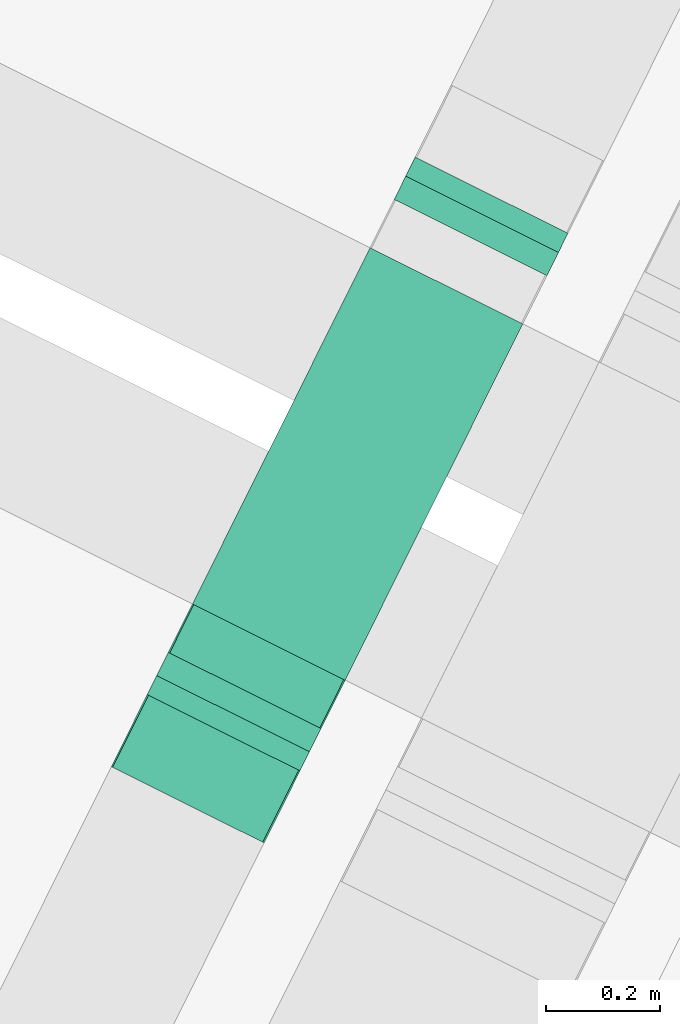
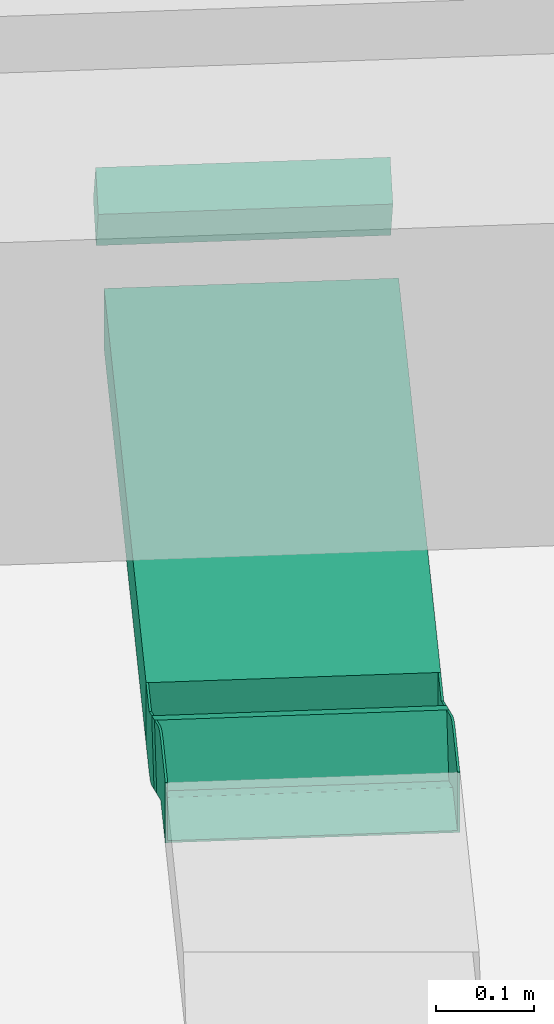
# One storey, part 27 of 47: 3 flow segments, 2 flow fittings.
"""IFC2X3 building model written with IfcOpenShell, lengths in metres."""

from ifc_helpers import new_model, entity, si_unit, converted_unit, derived_unit, direction, frame, frame_2d, origin, place, context, subcontext, project, spatial, rectangle, extrude, faceted_brep, source, transform, mapped, type_object, type_shapes, element, save


model = new_model("IFC2X3")

# Units and contexts
model_context = context("Model", 3, precision=1e-05, world=origin(), true_north=direction((0.894925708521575, 0.446215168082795)))
context_of_model = context(None, 3, precision=1e-05, world=origin(), true_north=direction((0.894925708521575, 0.446215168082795)))
body_context = subcontext(model_context, "Body", "Model", "MODEL_VIEW")
ifc_project = project(units=[si_unit("LENGTHUNIT", "METRE"), si_unit("AREAUNIT", "SQUARE_METRE"), si_unit("VOLUMEUNIT", "CUBIC_METRE"), converted_unit("PLANEANGLEUNIT", "DEGREE", entity("IfcRatioMeasure", 0.0174532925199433), si_unit("PLANEANGLEUNIT", "RADIAN"), dimensions=[0, 0, 0, 0, 0, 0, 0]), si_unit("MASSUNIT", "GRAM", prefix="KILO"), si_unit("TIMEUNIT", "SECOND"), si_unit("FREQUENCYUNIT", "HERTZ"), si_unit("THERMODYNAMICTEMPERATUREUNIT", "DEGREE_CELSIUS"), derived_unit("THERMALTRANSMITTANCEUNIT", [(si_unit("MASSUNIT", "GRAM", prefix="KILO"), 1), (si_unit("THERMODYNAMICTEMPERATUREUNIT", "KELVIN"), -1), (si_unit("TIMEUNIT", "SECOND"), -3)]), derived_unit("VOLUMETRICFLOWRATEUNIT", [(si_unit("LENGTHUNIT", "METRE"), 3), (si_unit("TIMEUNIT", "SECOND"), -1)]), si_unit("ELECTRICCURRENTUNIT", "AMPERE"), si_unit("ELECTRICVOLTAGEUNIT", "VOLT"), si_unit("POWERUNIT", "WATT"), si_unit("FORCEUNIT", "NEWTON", prefix="KILO"), si_unit("ILLUMINANCEUNIT", "LUX"), si_unit("LUMINOUSFLUXUNIT", "LUMEN"), si_unit("LUMINOUSINTENSITYUNIT", "CANDELA"), si_unit("PRESSUREUNIT", "PASCAL")], contexts=[model_context, context_of_model])

# Site, building, storey
site_placement = place(None, frame((218.228324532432, 584.720189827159, 0.0), z_axis=(0.0, 0.0, 1.0), x_axis=(0.446215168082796, 0.894925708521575, 0.0)))
site = spatial("IfcSite", under=ifc_project, at=site_placement, Name="Default", CompositionType="ELEMENT")
building_placement = place(site_placement, origin())
building = spatial("IfcBuilding", under=site, at=building_placement, CompositionType="ELEMENT")
storey_placement = place(building_placement, frame((0.0, 0.0, 4.69)))
storey = spatial("IfcBuildingStorey", under=building, at=storey_placement, Name="1 - Piano Primo", CompositionType="ELEMENT", Elevation=4.69)

# Flow segments
cable_carrier_segment_type = type_object("IfcCableCarrierSegmentType", Name="Passerella con raccordi:Passerella canale", PredefinedType="NOTDEFINED")
flow_segment_1_placement = place(storey_placement, frame((-13.3624177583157, -3.35107899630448, 2.92822448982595)))
element("IfcFlowSegment", 1, at=flow_segment_1_placement, inside=storey, type_object=cable_carrier_segment_type, Name="Passerella con raccordi:Passerella canale", ObjectType="Passerella con raccordi:Passerella canale", context=body_context, shape_type="SweptSolid", body=[
    extrude(rectangle(XDim=0.0749999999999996, YDim=0.0527002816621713, at=frame_2d((2.70616862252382e-16, 4.64905891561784e-16), x_axis=(0.0, 1.0))), frame((0.0415698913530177, 0.0, 0.0456510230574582), z_axis=(0.0, 1.0, 0.0), x_axis=(-0.866025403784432, 0.0, 0.500000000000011)), (0.0, 0.0, 1.0), 0.3),
])
flow_segment_2_placement = place(storey_placement, frame((-13.1843892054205, -3.35107899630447, 2.8927510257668)))
element("IfcFlowSegment", 2, at=flow_segment_2_placement, inside=storey, type_object=cable_carrier_segment_type, Name="Passerella con raccordi:Passerella canale", ObjectType="Passerella con raccordi:Passerella canale", context=body_context, shape_type="SweptSolid", body=[
    extrude(rectangle(XDim=0.699999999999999, YDim=0.3, at=frame_2d((1.08246744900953e-15, 0.0), x_axis=(1.0, 0.0))), frame((0.350000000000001, 0.150000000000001, 0.0)), (0.0, 0.0, 1.0), 0.0750000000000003),
])
flow_segment_3_placement = place(storey_placement, frame((-12.3895004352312, -3.35107899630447, 2.92822448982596)))
element("IfcFlowSegment", 3, at=flow_segment_3_placement, inside=storey, type_object=cable_carrier_segment_type, Name="Passerella con raccordi:Passerella canale", ObjectType="Passerella con raccordi:Passerella canale", context=body_context, shape_type="SweptSolid", body=[
    extrude(rectangle(XDim=0.0749999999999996, YDim=0.0527002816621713, at=frame_2d((-2.70616862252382e-16, 4.68375338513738e-16), x_axis=(0.0, 1.0))), frame((0.0415698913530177, 0.0, 0.0456510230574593), z_axis=(0.0, 1.0, 0.0), x_axis=(0.866025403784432, 0.0, 0.500000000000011)), (0.0, 0.0, 1.0), 0.3),
])

# Flow fittings
cable_carrier_fitting_type_1 = type_object("IfcCableCarrierFittingType", Name="Standard", PredefinedType="NOTDEFINED")
shared_shape_1 = source(origin(), body_context, "Body", "Brep", [
    faceted_brep([(-0.0608988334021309, -0.0374999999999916, -0.150000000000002), (-0.0608988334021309, -0.0374999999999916, -0.147460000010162), (-0.0608988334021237, 0.0349600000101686, -0.147460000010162), (-0.0608988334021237, 0.0349600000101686, 0.147460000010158), (-0.0608988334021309, -0.0374999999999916, 0.147460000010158), (-0.0608988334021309, -0.0374999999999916, 0.149999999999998), (-0.0608988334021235, 0.0375000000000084, 0.149999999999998), (-0.0608988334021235, 0.0375000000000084, -0.150000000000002), (0.0702199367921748, -0.000173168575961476, -0.147460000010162), (0.0339899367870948, -0.0629253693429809, -0.147460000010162), (0.0339899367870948, -0.0629253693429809, -0.150000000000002), (0.0714899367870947, 0.00202653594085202, -0.150000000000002), (0.0714899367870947, 0.00202653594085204, 0.149999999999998), (0.0339899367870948, -0.0629253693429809, 0.149999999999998), (0.0339899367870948, -0.0629253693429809, 0.147460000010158), (0.0702199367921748, -0.000173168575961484, 0.147460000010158), (-0.0108988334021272, -0.0374999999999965, 0.149999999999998), (-0.0100770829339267, -0.0376081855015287, 0.149999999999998), (-0.00931133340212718, -0.037925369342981, 0.149999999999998), (0.0281886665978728, 0.027026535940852, 0.149999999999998), (0.00933434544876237, 0.0348362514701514, 0.149999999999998), (-0.0108988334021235, 0.0375000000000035, 0.149999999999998), (-0.0108988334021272, 0.0375000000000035, -0.00436238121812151), (-0.0108988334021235, 0.0375000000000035, -0.150000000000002), (0.00933434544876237, 0.0348362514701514, -0.150000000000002), (0.0281886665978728, 0.027026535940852, -0.150000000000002), (-0.00931133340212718, -0.0379253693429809, -0.150000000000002), (-0.0100770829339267, -0.0376081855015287, -0.150000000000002), (-0.0108988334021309, -0.0374999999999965, -0.150000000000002), (-0.0108988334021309, -0.0374999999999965, -0.147460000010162), (-0.0108988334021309, -0.0374999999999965, 0.147460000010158), (-0.0100770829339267, -0.0376081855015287, -0.147460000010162), (-0.00931133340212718, -0.037925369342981, -0.147460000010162), (0.0269186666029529, 0.0248268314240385, -0.147460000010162), (0.00867694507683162, 0.0323827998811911, -0.147460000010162), (-0.0108988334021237, 0.0349600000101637, -0.147460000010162), (-0.0108988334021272, 0.0349600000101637, -0.00437396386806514), (-0.0108988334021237, 0.0349600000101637, 0.147460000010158), (0.00867694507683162, 0.0323827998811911, 0.147460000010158), (0.0269186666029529, 0.0248268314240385, 0.147460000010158), (-0.00931133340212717, -0.0379253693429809, 0.147460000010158), (-0.0100770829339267, -0.0376081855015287, 0.147460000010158), (0.00517118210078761, 0.0358304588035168, 0.0), (0.0281886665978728, 0.027026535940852, -0.00436237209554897), (0.00483151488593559, 0.0333061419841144, 0.0), (0.0269186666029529, 0.0248268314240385, -0.00437395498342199)], [[[0, 1, 2, 3, 4, 5, 6, 7]], [[8, 9, 10, 11, 12, 13, 14, 15]], [[5, 16, 17, 18, 13, 12, 19, 20, 21, 6]], [[21, 22, 23, 7, 6]], [[7, 23, 24, 25, 11, 10, 26, 27, 28, 0]], [[29, 1, 0, 28]], [[16, 5, 4, 30]], [[1, 29, 31, 32, 9, 8, 33, 34, 35, 2]], [[35, 36, 37, 3, 2]], [[3, 37, 38, 39, 15, 14, 40, 41, 30, 4]], [[42, 23, 22, 21]], [[25, 24, 43]], [[20, 19, 43]], [[24, 23, 42]], [[42, 20, 43]], [[24, 42, 43]], [[20, 42, 21]], [[28, 27, 31, 29]], [[16, 30, 41, 17]], [[31, 27, 26, 32]], [[41, 40, 18, 17]], [[37, 36, 35, 44]], [[45, 34, 33]], [[45, 39, 38]], [[44, 35, 34]], [[45, 38, 44]], [[45, 44, 34]], [[37, 44, 38]], [[11, 25, 43, 19, 12]], [[9, 32, 26, 10]], [[13, 18, 40, 14]], [[15, 39, 45, 33, 8]]]),
])
type_shapes(cable_carrier_fitting_type_1, [shared_shape_1])
flow_fitting_1_placement = place(storey_placement, frame((-13.2452880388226, -3.20107899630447, 2.93025102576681), z_axis=(0.0, -1.0, 0.0), x_axis=(-1.0, 0.0, 0.0)))
element("IfcFlowFitting", 4, at=flow_fitting_1_placement, inside=storey, type_object=cable_carrier_fitting_type_1, Name="M_Curvatura interna verticale canale:Standard", ObjectType="Standard", context=body_context, shape_type="MappedRepresentation", body=[
    mapped(shared_shape_1, transform((0.0, 0.0, 0.0), scale=1.0)),
])
cable_carrier_fitting_type_2 = type_object("IfcCableCarrierFittingType", Name="Standard", PredefinedType="NOTDEFINED")
shared_shape_2 = source(origin(), body_context, "Body", "Brep", [
    faceted_brep([(-0.0858988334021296, -0.0374999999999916, -0.150000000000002), (-0.0858988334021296, -0.0374999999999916, 0.149999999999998), (-0.0858988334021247, 0.0375000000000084, 0.149999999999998), (-0.0858988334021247, 0.0375000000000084, 0.147460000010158), (-0.0858988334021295, -0.0349600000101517, 0.147460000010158), (-0.0858988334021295, -0.0349600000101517, -0.147460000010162), (-0.0858988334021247, 0.0375000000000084, -0.147460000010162), (-0.0858988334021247, 0.0375000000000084, -0.150000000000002), (0.0931405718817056, -0.0104734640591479, -0.150000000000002), (0.0931405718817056, -0.0104734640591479, -0.147460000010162), (0.0569105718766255, -0.0732256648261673, -0.147460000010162), (0.0569105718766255, -0.0732256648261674, 0.147460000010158), (0.0931405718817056, -0.0104734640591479, 0.147460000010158), (0.0931405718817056, -0.0104734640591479, 0.149999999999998), (0.0556405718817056, -0.0754253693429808, 0.149999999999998), (0.0556405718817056, -0.0754253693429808, -0.150000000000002), (-0.0108988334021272, -0.0374999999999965, 0.149999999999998), (-0.0100770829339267, -0.0376081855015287, 0.149999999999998), (-0.00931133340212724, -0.037925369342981, 0.149999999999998), (0.0281886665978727, 0.027026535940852, 0.149999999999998), (0.0187615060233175, 0.0309313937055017, 0.149999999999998), (0.0093343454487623, 0.0348362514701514, 0.149999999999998), (-0.000782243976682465, 0.0361681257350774, 0.149999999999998), (-0.0108988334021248, 0.0375000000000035, 0.149999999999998), (-0.0108988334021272, -0.0374999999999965, -0.150000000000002), (-0.0108988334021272, -0.0374999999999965, -0.142222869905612), (-0.0108988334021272, -0.0374999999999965, -0.134445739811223), (-0.0108988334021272, -0.0374999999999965, -0.126668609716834), (-0.0108988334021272, -0.0374999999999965, -0.118891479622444), (-0.0108988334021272, -0.0374999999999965, -0.111114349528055), (-0.0108988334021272, -0.0374999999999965, -0.103337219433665), (-0.0108988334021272, -0.0374999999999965, -0.0955600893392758), (-0.0108988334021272, -0.0374999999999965, -0.0877829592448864), (-0.0108988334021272, -0.0374999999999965, -0.0822965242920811), (-0.0108988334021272, -0.0374999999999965, -0.0768100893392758), (-0.0108988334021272, -0.0374999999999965, -0.0713236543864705), (-0.0108988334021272, -0.0374999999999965, -0.0658372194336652), (-0.0108988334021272, -0.0374999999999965, -0.06035078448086), (-0.0108988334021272, -0.0374999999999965, -0.0548643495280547), (-0.0108988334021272, -0.0374999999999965, -0.0493779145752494), (-0.0108988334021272, -0.0374999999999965, -0.0438914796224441), (-0.0108988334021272, -0.0374999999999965, -0.0384050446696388), (-0.0108988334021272, -0.0374999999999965, -0.0329186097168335), (-0.0108988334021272, -0.0374999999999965, -0.0274321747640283), (-0.0108988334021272, -0.0374999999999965, -0.021945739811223), (-0.0108988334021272, -0.0374999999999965, -0.0164593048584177), (-0.0108988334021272, -0.0374999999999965, -0.0109728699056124), (-0.0108988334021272, -0.0374999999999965, -0.00548643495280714), (-0.0108988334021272, -0.0374999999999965, 0.0), (-0.0108988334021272, -0.0374999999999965, 0.00468749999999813), (-0.0108988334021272, -0.0374999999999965, 0.00937499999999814), (-0.0108988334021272, -0.0374999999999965, 0.0187499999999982), (-0.0108988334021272, -0.0374999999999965, 0.0281249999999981), (-0.0108988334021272, -0.0374999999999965, 0.0328124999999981), (-0.0108988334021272, -0.0374999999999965, 0.0374999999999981), (-0.0108988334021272, -0.0374999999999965, 0.0468749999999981), (-0.0108988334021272, -0.0374999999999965, 0.0562499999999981), (-0.0108988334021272, -0.0374999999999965, 0.0656249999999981), (-0.0108988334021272, -0.0374999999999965, 0.0749999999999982), (-0.0108988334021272, -0.0374999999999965, 0.0843749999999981), (-0.0108988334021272, -0.0374999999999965, 0.0890624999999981), (-0.0108988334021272, -0.0374999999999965, 0.0937499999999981), (-0.0108988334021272, -0.0374999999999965, 0.103124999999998), (-0.0108988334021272, -0.0374999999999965, 0.112499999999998), (-0.0108988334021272, -0.0374999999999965, 0.121874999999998), (-0.0108988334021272, -0.0374999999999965, 0.131249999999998), (-0.0108988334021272, -0.0374999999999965, 0.136736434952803), (-0.0108988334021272, -0.0374999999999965, 0.142222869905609), (-0.0108988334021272, 0.0375000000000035, -0.150000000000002), (-0.00136101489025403, 0.0362443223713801, -0.150000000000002), (0.0093343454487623, 0.0348362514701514, -0.150000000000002), (0.0187615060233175, 0.0309313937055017, -0.150000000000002), (0.0281886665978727, 0.027026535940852, -0.150000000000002), (-0.00931133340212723, -0.0379253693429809, -0.150000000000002), (-0.0100770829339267, -0.0376081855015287, -0.150000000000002), (-0.0108988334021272, 0.0375000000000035, -0.147460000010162), (-0.0108988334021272, 0.0375000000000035, 0.147460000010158), (-0.0108988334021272, -0.0349600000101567, -0.147460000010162), (-0.00941968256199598, -0.0351547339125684, -0.147460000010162), (-0.00804133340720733, -0.0357256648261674, -0.147460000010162), (0.0281886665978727, 0.027026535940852, -0.147460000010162), (0.0187615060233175, 0.0309313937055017, -0.147460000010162), (0.0093343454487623, 0.0348362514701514, -0.147460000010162), (-0.000782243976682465, 0.0361681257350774, -0.147460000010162), (-0.0108988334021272, -0.0349600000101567, 0.147460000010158), (-0.0108988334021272, -0.0349600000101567, 0.137025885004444), (-0.0108988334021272, -0.0349600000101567, 0.12659176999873), (-0.0108988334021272, -0.0349600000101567, 0.110595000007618), (-0.0108988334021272, -0.0349600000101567, 0.0921625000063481), (-0.0108988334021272, -0.0349600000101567, 0.0737300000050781), (-0.0108988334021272, -0.0349600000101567, 0.0552975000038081), (-0.0108988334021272, -0.0349600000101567, 0.0368650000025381), (-0.0108988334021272, -0.0349600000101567, 0.0184325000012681), (-0.0108988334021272, -0.0349600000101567, 0.0), (-0.0108988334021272, -0.0349600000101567, -0.0159967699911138), (-0.0108988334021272, -0.0349600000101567, -0.0319935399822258), (-0.0108988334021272, -0.0349600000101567, -0.0479903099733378), (-0.0108988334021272, -0.0349600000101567, -0.0639870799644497), (-0.0108988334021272, -0.0349600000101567, -0.0744211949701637), (-0.0108988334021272, -0.0349600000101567, -0.0848553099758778), (-0.0108988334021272, -0.0349600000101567, -0.0952894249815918), (-0.0108988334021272, -0.0349600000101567, -0.105723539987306), (-0.0108988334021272, -0.0349600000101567, -0.11615765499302), (-0.0108988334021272, -0.0349600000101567, -0.126591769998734), (-0.0108988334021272, -0.0349600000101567, -0.137025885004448), (-0.000782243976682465, 0.0361681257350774, 0.147460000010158), (0.0093343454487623, 0.0348362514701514, 0.147460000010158), (0.0193008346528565, 0.0307079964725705, 0.147460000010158), (0.0281886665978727, 0.027026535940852, 0.147460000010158), (-0.00804133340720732, -0.0357256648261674, 0.147460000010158), (-0.00941968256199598, -0.0351547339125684, 0.147460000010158), (-0.0100160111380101, -0.0376252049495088, 0.0878571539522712), (-0.00931133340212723, -0.0379253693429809, -0.0731899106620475), (-0.00931133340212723, -0.0379253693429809, -0.0677034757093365), (-0.0101159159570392, -0.0375980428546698, -0.0740668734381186), (-0.00931133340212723, -0.0379253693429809, -0.0786763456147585), (-0.0101159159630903, -0.0375980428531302, -0.052121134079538), (-0.00931133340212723, -0.0379253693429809, -0.0567306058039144), (-0.00931133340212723, -0.0379253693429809, -0.0512441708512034), (-0.00931133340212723, -0.0379253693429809, -0.0457577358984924), (-0.0100062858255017, -0.0376280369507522, 0.0107980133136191), (-0.0100430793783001, -0.0376174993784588, 0.017385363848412), (-0.00931133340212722, -0.0379253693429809, -0.146111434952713), (-0.0100060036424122, -0.0376281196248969, -0.142569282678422), (-0.00931133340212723, -0.0379253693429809, 0.0200794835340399), (-0.0101719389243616, -0.0375843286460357, 0.0236284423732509), (-0.00931133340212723, -0.0379253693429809, 0.14222286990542), (-0.0100770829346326, -0.0376081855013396, 0.138334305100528), (-0.00931133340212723, -0.0379253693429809, 0.134445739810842), (-0.00999532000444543, -0.0376312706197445, 0.122780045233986), (-0.0100663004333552, -0.0376110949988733, 0.0542475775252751), (-0.00931133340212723, -0.0379253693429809, 0.0566744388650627), (-0.010097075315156, -0.0376028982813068, 0.0605630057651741), (-0.0101157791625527, -0.0375980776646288, -0.129790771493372), (-0.0100389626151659, -0.0376186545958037, -0.119824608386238), (-0.01011591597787, -0.0375980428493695, -0.0301753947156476), (-0.0099977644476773, -0.0376305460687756, 0.0761172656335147), (-0.00931133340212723, -0.0379253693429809, 0.0800058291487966), (-0.0100662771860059, -0.0376111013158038, 0.0824060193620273), (-0.00931133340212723, -0.0379253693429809, 0.0333430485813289), (-0.00931133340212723, -0.0379253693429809, 0.0411201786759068), (-0.0100563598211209, -0.0376138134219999, 0.0388108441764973), (-0.00931133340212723, -0.0379253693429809, -0.0292984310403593), (-0.00931133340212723, -0.0379253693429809, -0.0238119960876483), (-0.00931133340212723, -0.0379253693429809, -0.0347848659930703), (-0.00931133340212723, -0.0379253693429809, -0.00735269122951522), (-0.00931133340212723, -0.0379253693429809, -0.0018662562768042), (-0.0101159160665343, -0.0375980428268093, -0.00822965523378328), (-0.00931133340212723, -0.0379253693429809, -0.0128391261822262), (-0.010022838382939, -0.0376232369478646, 0.144167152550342), (-0.0100105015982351, -0.0376268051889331, 0.0450087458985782), (-0.00931133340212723, -0.0379253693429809, 0.0488973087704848), (-0.0100992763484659, -0.0376023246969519, 0.00234375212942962), (-0.0101111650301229, -0.0375992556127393, 0.06937590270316), (-0.00931133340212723, -0.0379253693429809, 0.0145930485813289), (-0.0100494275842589, -0.0376157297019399, -0.136209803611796), (-0.0100191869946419, -0.0376242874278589, -0.0434785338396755), (-0.00931133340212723, -0.0379253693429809, -0.0402713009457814), (-0.0101258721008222, -0.0375955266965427, -0.0371719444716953), (-0.0101258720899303, -0.0375955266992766, -0.0591176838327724), (-0.0100602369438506, -0.0376127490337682, -0.0934055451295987), (-0.0100098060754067, -0.0376270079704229, -0.11311245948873), (-0.0100492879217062, -0.0376157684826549, 0.0933153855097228), (-0.010067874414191, -0.0376106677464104, 0.0994486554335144), (-0.010108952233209, -0.0375998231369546, 0.109805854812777), (-0.00931133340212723, -0.0379253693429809, 0.10333721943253), (-0.00931133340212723, -0.0379253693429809, 0.111114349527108), (-0.0100522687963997, -0.0376149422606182, 0.132170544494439), (-0.00931133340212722, -0.0379253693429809, -0.13902713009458), (-0.010106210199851, -0.0376005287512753, 0.116092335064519), (-0.00931133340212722, -0.0379253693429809, -0.133540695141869), (-0.0101258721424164, -0.0375955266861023, -0.0152262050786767), (-0.00931133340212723, -0.0379253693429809, -0.0183255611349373), (-0.0100191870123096, -0.0376242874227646, -0.0215327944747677), (-0.0101258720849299, -0.0375955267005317, -0.0810634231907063), (-0.00931133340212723, -0.0379253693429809, -0.0622170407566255), (-0.0100191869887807, -0.037624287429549, -0.0654242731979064), (-0.00931133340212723, -0.0379253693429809, -0.0951356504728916), (-0.00931133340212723, -0.0379253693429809, -0.0896492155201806), (-0.00931133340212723, -0.0379253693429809, -0.0841627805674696), (-0.0100191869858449, -0.0376242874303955, -0.0873700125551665), (-0.00931133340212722, -0.0379253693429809, -0.122567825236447), (-0.00931133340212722, -0.0379253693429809, -0.117081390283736), (-0.0101042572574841, -0.0376010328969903, -0.105576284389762), (-0.00931133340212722, -0.0379253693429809, -0.111594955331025), (-0.00931133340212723, -0.0379253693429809, -0.106108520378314), (-0.00931133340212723, -0.0379253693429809, -0.100622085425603), (-0.00931133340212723, -0.0379253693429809, 0.126668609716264), (-0.00931133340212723, -0.0379253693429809, 0.118891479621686), (-0.00931133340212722, -0.0379253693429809, -0.128054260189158), (-0.00931133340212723, -0.0379253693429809, 0.0955600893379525), (-0.00931133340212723, -0.0379253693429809, 0.0877829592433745), (-0.00931133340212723, -0.0379253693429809, 0.0722286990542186), (-0.00931133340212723, -0.0379253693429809, 0.0644515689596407), (-0.0100612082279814, -0.0376124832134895, 0.0304687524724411), (-0.00931133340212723, -0.0379253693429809, 0.0255659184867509), (-0.00931133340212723, -0.0379253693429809, 0.00910661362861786), (-0.00931133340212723, -0.0379253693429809, 0.00362017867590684), (-0.0100571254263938, -0.0376136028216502, -0.0994486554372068), (-0.00943516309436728, -0.0351506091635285, -0.0450563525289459), (-0.00804133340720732, -0.0357256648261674, -0.0535529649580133), (-0.00941968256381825, -0.0351547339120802, -0.0559886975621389), (-0.00941968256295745, -0.0351547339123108, -0.0796382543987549), (-0.00941968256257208, -0.0351547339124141, -0.093108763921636), (-0.00941968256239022, -0.0351547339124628, -0.107538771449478), (-0.00941968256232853, -0.0351547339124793, -0.118338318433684), (-0.00941968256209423, -0.0351547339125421, -0.131808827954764), (-0.00941968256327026, -0.035154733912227, -0.0670727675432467), (-0.00804133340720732, -0.0357256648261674, 0.115466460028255), (-0.00951383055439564, -0.0351303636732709, 0.119704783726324), (-0.00804133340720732, -0.0357256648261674, 0.131463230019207), (-0.00938820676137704, -0.0351632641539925, 0.0142687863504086), (-0.009539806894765, -0.035123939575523, 0.0276487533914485), (-0.00944772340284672, -0.0351472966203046, 0.0964175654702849), (-0.00938732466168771, -0.0351635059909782, 0.00298298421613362), (-0.00804133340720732, -0.0357256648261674, -0.0639870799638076), (-0.00804133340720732, -0.0357256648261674, -0.0744211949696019), (-0.00804133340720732, -0.0357256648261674, -0.0848553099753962), (-0.00804133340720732, -0.0357256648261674, -0.0952894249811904), (-0.00804133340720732, -0.0357256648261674, -0.105723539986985), (-0.00804133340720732, -0.0357256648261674, -0.116157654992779), (-0.00804133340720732, -0.0357256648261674, -0.126591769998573), (-0.00804133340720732, -0.0357256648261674, -0.137025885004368), (-0.00931691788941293, -0.0351833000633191, 0.0731869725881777), (-0.00960988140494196, -0.0351072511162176, 0.0843997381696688), (-0.00939822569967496, -0.0351605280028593, -0.0274676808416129), (-0.00804133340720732, -0.0357256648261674, -0.0222506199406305), (-0.00804133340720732, -0.0357256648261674, -0.0326847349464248), (-0.00938352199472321, -0.0351645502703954, 0.0609207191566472), (-0.00804133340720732, -0.0357256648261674, 0.0354826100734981), (-0.00804133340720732, -0.0357256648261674, 0.0194858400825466), (-0.0092916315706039, -0.0351906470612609, -0.0159019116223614), (-0.00950624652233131, -0.0351322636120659, 0.131808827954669), (-0.00925164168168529, -0.0352025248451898, 0.107597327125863), (-0.00804133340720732, -0.0357256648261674, 0.0994696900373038), (-0.00804133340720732, -0.0357256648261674, 0.0834729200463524), (-0.00804133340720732, -0.0357256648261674, 0.0674761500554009), (-0.00804133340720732, -0.0357256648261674, -0.043118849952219), (-0.00939896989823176, -0.0351603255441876, 0.0385250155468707), (-0.00953825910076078, -0.0351243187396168, 0.0497283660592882), (-0.00804133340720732, -0.0357256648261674, 0.00905172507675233), (-0.00804133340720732, -0.0357256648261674, -0.0118165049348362), (-0.00804133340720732, -0.0357256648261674, -0.00138238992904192), (-0.00804133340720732, -0.0357256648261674, 0.0514793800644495)], [[[0, 1, 2, 3, 4, 5, 6, 7]], [[8, 9, 10, 11, 12, 13, 14, 15]], [[1, 16, 17, 18, 14, 13, 19, 20, 21, 22, 23, 2]], [[16, 1, 0, 24, 25, 26, 27, 28, 29, 30, 31, 32, 33, 34, 35, 36, 37, 38, 39, 40, 41, 42, 43, 44, 45, 46, 47, 48, 49, 50, 51, 52, 53, 54, 55, 56, 57, 58, 59, 60, 61, 62, 63, 64, 65, 66, 67]], [[7, 68, 69, 70, 71, 72, 8, 15, 73, 74, 24, 0]], [[75, 68, 7, 6]], [[23, 76, 3, 2]], [[5, 77, 78, 79, 10, 9, 80, 81, 82, 83, 75, 6]], [[77, 5, 4, 84, 85, 86, 87, 88, 89, 90, 91, 92, 93, 94, 95, 96, 97, 98, 99, 100, 101, 102, 103, 104]], [[3, 76, 105, 106, 107, 108, 12, 11, 109, 110, 84, 4]], [[59, 111, 60]], [[112, 113, 114, 115]], [[116, 117, 118, 119]], [[114, 35, 34]], [[116, 39, 38]], [[50, 120, 121]], [[122, 123, 74]], [[121, 124, 125]], [[74, 73, 122]], [[126, 127, 128]], [[129, 65, 64]], [[130, 131, 132]], [[27, 133, 134]], [[135, 43, 42]], [[136, 137, 138]], [[139, 140, 141]], [[142, 143, 135, 144]], [[145, 146, 147, 148]], [[127, 126, 149]], [[130, 150, 151]], [[147, 146, 152]], [[57, 153, 58]], [[141, 140, 150]], [[120, 154, 121]], [[155, 25, 123]], [[156, 157, 158]], [[159, 117, 116]], [[31, 160, 32]], [[29, 28, 161]], [[132, 153, 57]], [[61, 162, 163]], [[164, 165, 166]], [[167, 66, 65]], [[122, 168, 123]], [[164, 166, 169]], [[149, 67, 127]], [[170, 133, 155]], [[167, 128, 127]], [[25, 155, 26]], [[16, 67, 149]], [[25, 24, 74]], [[127, 67, 66]], [[18, 17, 149]], [[171, 148, 147]], [[158, 144, 135]], [[172, 171, 173]], [[174, 115, 114]], [[175, 159, 176]], [[160, 177, 178]], [[179, 174, 180]], [[66, 167, 127]], [[123, 168, 155]], [[74, 123, 25]], [[155, 168, 170]], [[133, 181, 134]], [[134, 182, 161]], [[155, 133, 26]], [[29, 161, 183]], [[161, 28, 134]], [[182, 134, 181]], [[27, 134, 28]], [[183, 184, 185, 186]], [[167, 129, 187]], [[48, 47, 152, 49]], [[167, 65, 129]], [[187, 129, 188]], [[188, 129, 169]], [[187, 128, 167]], [[133, 170, 189, 181]], [[169, 64, 63]], [[64, 169, 129]], [[63, 62, 164]], [[169, 63, 164]], [[166, 188, 169]], [[162, 190, 163]], [[165, 163, 190]], [[164, 62, 163]], [[164, 163, 165]], [[61, 163, 62]], [[138, 58, 136]], [[191, 190, 162]], [[138, 111, 59]], [[136, 192, 137]], [[58, 138, 59]], [[137, 191, 138]], [[136, 153, 192]], [[58, 153, 136]], [[193, 132, 131]], [[130, 132, 56]], [[193, 192, 153]], [[162, 61, 60]], [[153, 132, 193]], [[57, 56, 132]], [[111, 138, 191]], [[141, 150, 54]], [[150, 130, 55]], [[130, 56, 55]], [[151, 150, 140]], [[151, 131, 130]], [[54, 150, 55]], [[125, 194, 52]], [[141, 54, 53]], [[52, 194, 53]], [[195, 194, 125]], [[194, 139, 141]], [[53, 194, 141]], [[195, 139, 194]], [[52, 51, 125]], [[121, 125, 51]], [[50, 121, 51]], [[124, 195, 125]], [[120, 50, 49]], [[152, 196, 120]], [[49, 152, 120]], [[18, 149, 126]], [[147, 46, 171]], [[46, 147, 47]], [[173, 45, 44, 43]], [[45, 173, 171]], [[152, 47, 147]], [[146, 197, 196, 152]], [[135, 143, 173]], [[135, 42, 158]], [[43, 135, 173]], [[156, 41, 40, 39]], [[176, 37, 36, 35]], [[41, 156, 158]], [[116, 119, 156]], [[116, 38, 159]], [[39, 116, 156]], [[37, 176, 159]], [[114, 113, 176]], [[114, 34, 174]], [[35, 114, 176]], [[29, 183, 30]], [[180, 33, 32]], [[33, 180, 174]], [[30, 198, 31]], [[160, 178, 180]], [[198, 177, 160]], [[183, 198, 30]], [[183, 186, 198]], [[121, 154, 124]], [[143, 172, 173]], [[119, 157, 156]], [[113, 175, 176]], [[178, 179, 180]], [[183, 161, 184]], [[32, 160, 180]], [[31, 198, 160]], [[196, 154, 120]], [[149, 17, 16]], [[161, 182, 184]], [[171, 172, 148]], [[158, 157, 144]], [[159, 175, 117]], [[174, 179, 115]], [[26, 133, 27]], [[191, 162, 111]], [[60, 111, 162]], [[171, 46, 45]], [[158, 42, 41]], [[159, 38, 37]], [[174, 34, 33]], [[186, 177, 198]], [[82, 70, 69, 68, 75, 83]], [[23, 22, 21, 106, 105, 76]], [[71, 70, 82, 81, 80, 72]], [[21, 20, 19, 108, 107, 106]], [[199, 200, 201]], [[202, 203, 204, 205, 206, 78, 77, 104, 103, 102, 101, 100, 99, 98, 97, 96, 201, 207]], [[85, 84, 110]], [[208, 209, 210]], [[211, 92, 212]], [[88, 87, 213]], [[211, 214, 93]], [[202, 207, 201, 200, 215, 216, 217, 218, 219, 220, 221, 222, 79, 78, 206, 205, 204, 203]], [[210, 110, 109]], [[223, 89, 224]], [[225, 226, 227]], [[223, 228, 89]], [[229, 230, 212]], [[94, 93, 231]], [[231, 225, 94]], [[209, 232, 210]], [[233, 87, 209]], [[232, 85, 110]], [[85, 232, 86]], [[209, 86, 232]], [[210, 232, 110]], [[209, 87, 86]], [[213, 234, 235]], [[234, 213, 233]], [[233, 209, 208]], [[224, 213, 235]], [[233, 208, 234]], [[233, 213, 87]], [[224, 88, 213]], [[224, 89, 88]], [[236, 228, 223]], [[201, 96, 199]], [[235, 223, 224]], [[92, 91, 212]], [[199, 227, 237, 200]], [[238, 212, 91]], [[239, 238, 91]], [[214, 211, 240]], [[240, 211, 230]], [[92, 211, 93]], [[211, 212, 230]], [[229, 212, 238]], [[199, 96, 95]], [[95, 94, 225]], [[227, 199, 225]], [[231, 226, 225]], [[95, 225, 199]], [[241, 226, 231, 242]], [[214, 242, 231]], [[238, 243, 229]], [[239, 228, 243]], [[90, 89, 228]], [[236, 223, 235]], [[90, 228, 239]], [[228, 236, 243]], [[90, 239, 91]], [[238, 239, 243]], [[93, 214, 231]], [[242, 214, 240]], [[14, 18, 126, 128, 187, 188, 166, 165, 190, 191, 137, 192, 193, 131, 151, 140, 139, 195, 124, 154, 196, 197, 146, 145, 148, 172, 143, 142, 144, 157, 119, 118, 117, 175, 113, 112, 115, 179, 178, 177, 186, 185, 184, 182, 181, 189, 170, 168, 122, 73, 15]], [[8, 72, 80, 9]], [[12, 108, 19, 13]], [[10, 79, 222, 221, 220, 219, 218, 217, 216, 215, 200, 237, 227, 226, 241, 242, 240, 230, 229, 243, 236, 235, 234, 208, 210, 109, 11]]]),
])
type_shapes(cable_carrier_fitting_type_2, [shared_shape_2])
flow_fitting_2_placement = place(storey_placement, frame((-13.4180583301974, -3.20107899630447, 3.03000000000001), z_axis=(0.0, -1.0, 0.0), x_axis=(1.0, 0.0, 0.0)))
element("IfcFlowFitting", 5, at=flow_fitting_2_placement, inside=storey, type_object=cable_carrier_fitting_type_2, Name="M_Curvatura esterna verticale canale:Standard", ObjectType="Standard", context=body_context, shape_type="MappedRepresentation", body=[
    mapped(shared_shape_2, transform((0.0, 0.0, 0.0), scale=1.0)),
])

save(model, "model.ifc")
